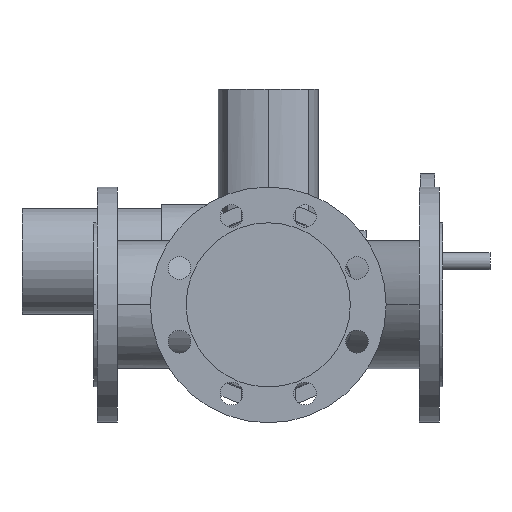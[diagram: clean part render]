
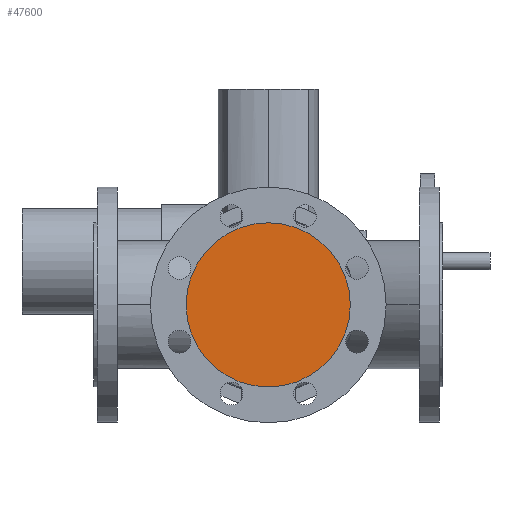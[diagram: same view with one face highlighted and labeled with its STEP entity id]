
A CAD part, front view. The second image highlights one B-rep face of the part: STEP entity #47600.
In plain terms, the highlighted planar face has unit normal (0, -1, 0).
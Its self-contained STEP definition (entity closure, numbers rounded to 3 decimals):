
#5660=CARTESIAN_POINT('',(294.,-200.,0.));
#5670=VERTEX_POINT('',#5660);
#5830=CARTESIAN_POINT('',(106.,-200.,0.));
#5840=VERTEX_POINT('',#5830);
#5870=CARTESIAN_POINT('',(200.,-200.,0.));
#5880=DIRECTION('',(0.,1.,0.));
#5890=DIRECTION('',(1.,0.,0.));
#5900=AXIS2_PLACEMENT_3D('',#5870,#5880,#5890);
#5910=CIRCLE('',#5900,94.);
#5920=EDGE_CURVE('',#5670,#5840,#5910,.T.);
#47500=CARTESIAN_POINT('',(247.,-200.,0.));
#47510=DIRECTION('',(0.,-1.,0.));
#47520=DIRECTION('',(-1.,0.,0.));
#47530=AXIS2_PLACEMENT_3D('',#47500,#47510,#47520);
#47540=PLANE('',#47530);
#47550=EDGE_CURVE('',#5840,#5670,#5910,.T.);
#47560=ORIENTED_EDGE('',*,*,#47550,.F.);
#47570=ORIENTED_EDGE('',*,*,#5920,.F.);
#47580=EDGE_LOOP('',(#47570,#47560));
#47590=FACE_OUTER_BOUND('',#47580,.T.);
#47600=ADVANCED_FACE('',(#47590),#47540,.T.);
